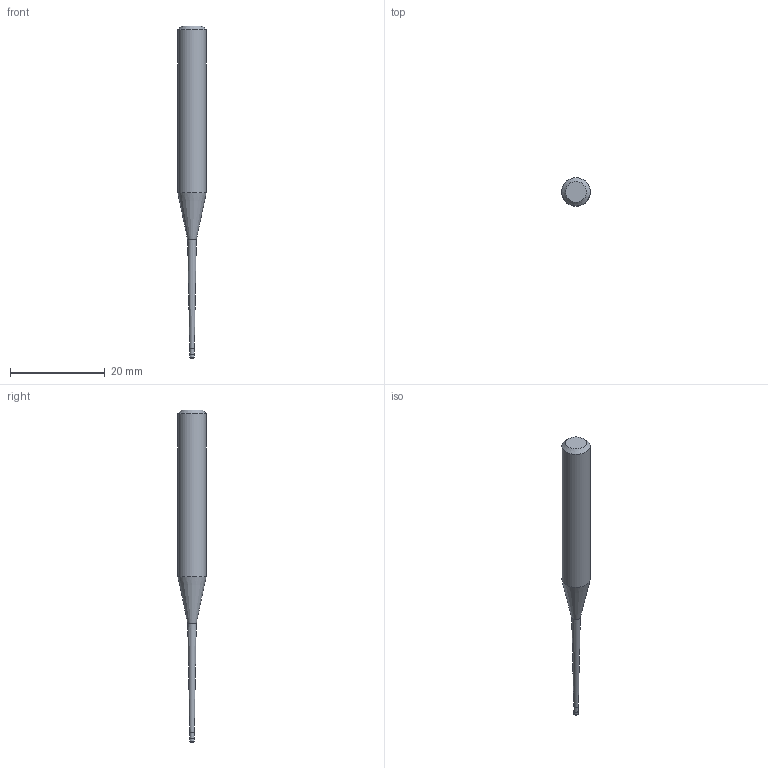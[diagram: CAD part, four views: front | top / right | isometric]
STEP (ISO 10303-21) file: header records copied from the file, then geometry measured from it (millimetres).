
FILE_DESCRIPTION((''),'2;1');
FILE_NAME('C:\Users\nsx150\AppData\Local\Temp\Mastercam 2021\YKS1SUSFZB\TEMP.step','2025-06-23T14:04:01',(''),(''),'STEP Write','Mastercam 2021 ... CNC Software, Inc.','');
FILE_SCHEMA(('AUTOMOTIVE_DESIGN'));
Length unit declared in the file: millimetre
Products named in the file (1): None
Bounding box: 6 x 6 x 70 mm (x, y, z)
Volume: 1155.5 mm3; surface area: 913.4 mm2
Topology: 2 solids, 2 shells, 11 faces, 16 edges, 9 vertices
Faces by surface type: plane 4, cylinder 3, cone 3, torus 1
Full cylindrical faces by diameter (mm): 0.955 x1, 1 x1, 6 x1
Entity records: 253 total; most frequent: DIRECTION 44, CARTESIAN_POINT 31, AXIS2_PLACEMENT_3D 22, ORIENTED_EDGE 18, EDGE_LOOP 18, STYLED_ITEM 14, ADVANCED_FACE 11, FACE_BOUND 11
